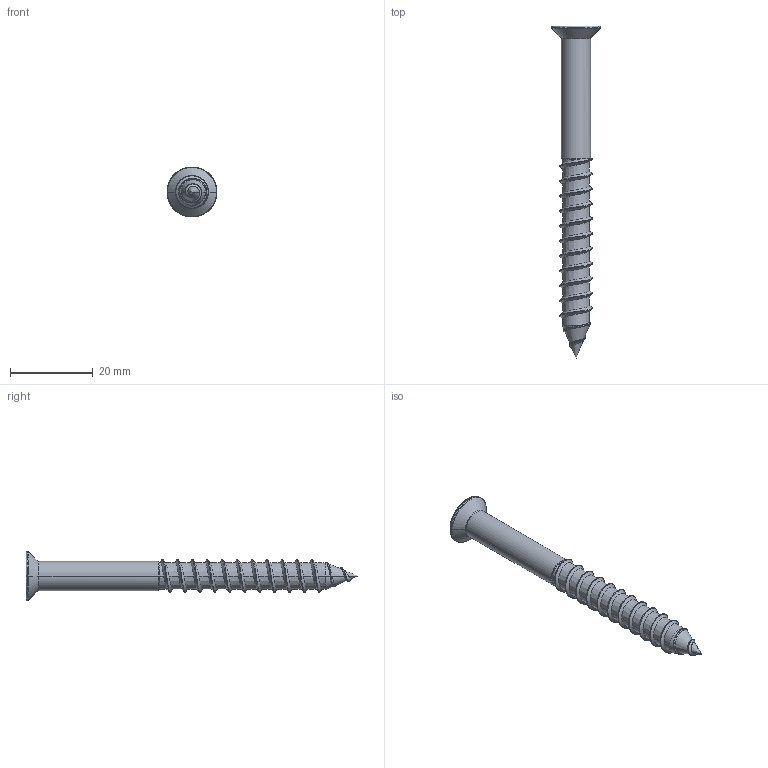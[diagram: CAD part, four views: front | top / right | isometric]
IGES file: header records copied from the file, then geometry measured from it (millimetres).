
Start section: 3D InterOp IGES (v. 2022 1.0.1), Spatial Corp. Copyright (c) 1999-2020.
Global section: file name: B142_WS_06.11.215-0 Wood screw f. Conan7x80 Tx30.igs; native system: Spatial Corp.; preprocessor: 3D InterOp GENERIC/IGES 3.0; author: Noname; organization: Noname; date: 20251208.163516; units: millimetre
Bounding box: 12 x 80 x 12 mm (x, y, z)
Surface area: 2193.2 mm2 (no closed solid volume)
Topology: 0 solids, 0 shells, 79 faces, 976 edges, 970 vertices
Faces by surface type: revolution 61, bspline 13, extrusion 5
